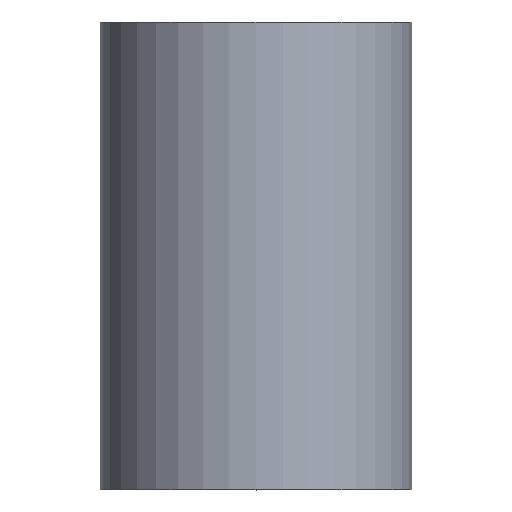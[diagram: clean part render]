
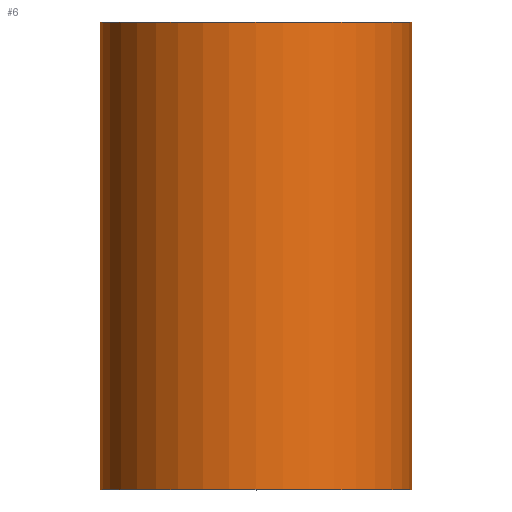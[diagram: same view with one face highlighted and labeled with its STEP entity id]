
A CAD part, top view. The second image highlights one B-rep face of the part: STEP entity #6.
In plain terms, the highlighted cylindrical face has radius 2 mm (diameter 4 mm), a partial arc.
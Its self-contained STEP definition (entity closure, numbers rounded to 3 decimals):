
#6 = ADVANCED_FACE ( 'NONE', ( #60 ), #220, .T. ) ;
#26 = EDGE_CURVE ( 'NONE', #270, #28, #206, .T. ) ;
#28 = VERTEX_POINT ( 'NONE', #291 ) ;
#34 = CARTESIAN_POINT ( 'NONE',  ( 0., 0., 0. ) ) ;
#36 = DIRECTION ( 'NONE',  ( 0., 1., 0. ) ) ;
#40 = CARTESIAN_POINT ( 'NONE',  ( 2., 6., 0. ) ) ;
#41 = DIRECTION ( 'NONE',  ( 0., 1., 0. ) ) ;
#49 = AXIS2_PLACEMENT_3D ( 'NONE', #224, #36, #229 ) ;
#51 = VECTOR ( 'NONE', #111, 1000. ) ;
#56 = EDGE_CURVE ( 'NONE', #270, #250, #146, .T. ) ;
#60 = FACE_OUTER_BOUND ( 'NONE', #183, .T. ) ;
#77 = VERTEX_POINT ( 'NONE', #40 ) ;
#78 = EDGE_CURVE ( 'NONE', #28, #77, #110, .T. ) ;
#83 = DIRECTION ( 'NONE',  ( 0., 1., 0. ) ) ;
#96 = CIRCLE ( 'NONE', #148, 2. ) ;
#104 = VECTOR ( 'NONE', #41, 1000. ) ;
#106 = EDGE_CURVE ( 'NONE', #250, #77, #96, .T. ) ;
#110 = LINE ( 'NONE', #253, #104 ) ;
#111 = DIRECTION ( 'NONE',  ( 0., 1., 0. ) ) ;
#113 = DIRECTION ( 'NONE',  ( 0., 1., 0. ) ) ;
#114 = DIRECTION ( 'NONE',  ( -1., 0., 0. ) ) ;
#122 = AXIS2_PLACEMENT_3D ( 'NONE', #34, #83, #204 ) ;
#127 = ORIENTED_EDGE ( 'NONE', *, *, #56, .F. ) ;
#146 = LINE ( 'NONE', #226, #51 ) ;
#148 = AXIS2_PLACEMENT_3D ( 'NONE', #207, #113, #114 ) ;
#183 = EDGE_LOOP ( 'NONE', ( #243, #225, #221, #127 ) ) ;
#204 = DIRECTION ( 'NONE',  ( -1., 0., 0. ) ) ;
#206 = CIRCLE ( 'NONE', #49, 2. ) ;
#207 = CARTESIAN_POINT ( 'NONE',  ( 0., 6., 0. ) ) ;
#208 = CARTESIAN_POINT ( 'NONE',  ( -2., 6., 0. ) ) ;
#220 = CYLINDRICAL_SURFACE ( 'NONE', #122, 2. ) ;
#221 = ORIENTED_EDGE ( 'NONE', *, *, #106, .F. ) ;
#224 = CARTESIAN_POINT ( 'NONE',  ( 0., 0., 0. ) ) ;
#225 = ORIENTED_EDGE ( 'NONE', *, *, #78, .T. ) ;
#226 = CARTESIAN_POINT ( 'NONE',  ( -2., 0., 0. ) ) ;
#229 = DIRECTION ( 'NONE',  ( -1., 0., 0. ) ) ;
#234 = CARTESIAN_POINT ( 'NONE',  ( -2., 0., 0. ) ) ;
#243 = ORIENTED_EDGE ( 'NONE', *, *, #26, .T. ) ;
#250 = VERTEX_POINT ( 'NONE', #208 ) ;
#253 = CARTESIAN_POINT ( 'NONE',  ( 2., 0., 0. ) ) ;
#270 = VERTEX_POINT ( 'NONE', #234 ) ;
#291 = CARTESIAN_POINT ( 'NONE',  ( 2., 0., 0. ) ) ;
